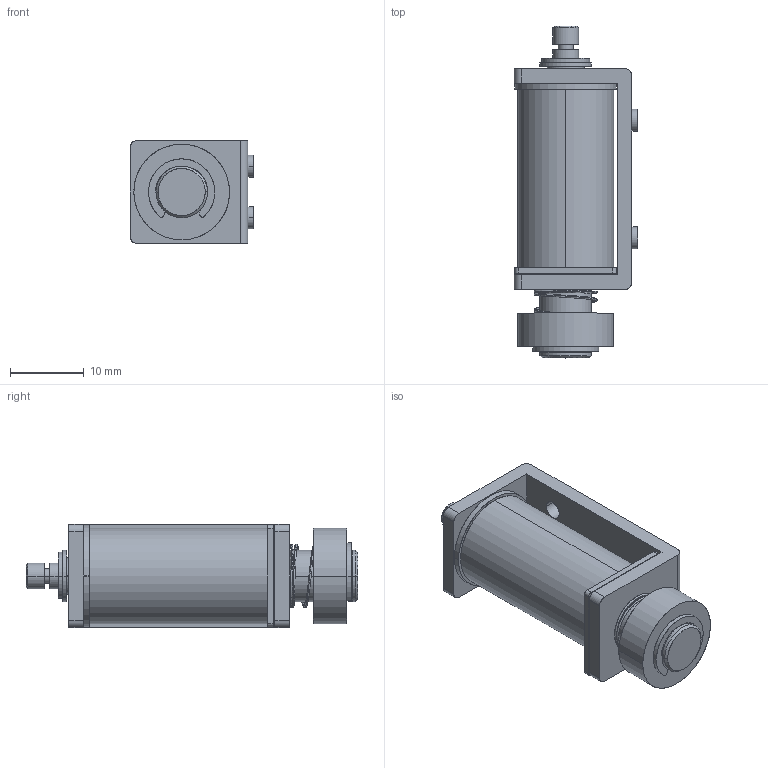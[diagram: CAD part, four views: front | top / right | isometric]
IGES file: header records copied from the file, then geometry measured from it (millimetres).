
Start section: SolidWorks IGES file using analytic representation for surfaces
Global section: file name: L:\カタログ\web用3Dデータ\CB0730\3D_CB0730\w_cb0730.IGS; native system: SolidWorks 2014; preprocessor: SolidWorks 2014; author: jiba; date: 140716.120316; units: millimetre
Bounding box: 16.8 x 45.1 x 14 mm (x, y, z)
Surface area: 6735.2 mm2 (no closed solid volume)
Topology: 0 solids, 0 shells, 150 faces, 2518 edges, 2518 vertices
Faces by surface type: revolution 90, bspline 60
